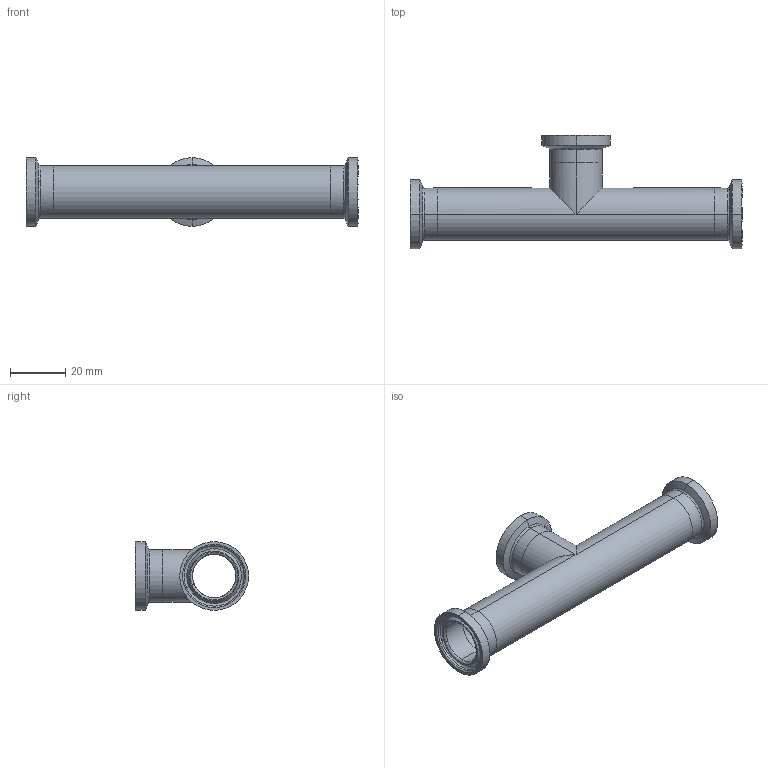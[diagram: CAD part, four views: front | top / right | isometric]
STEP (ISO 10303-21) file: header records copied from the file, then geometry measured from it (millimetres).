
FILE_DESCRIPTION (( 'STEP AP214' ), '1' );
FILE_NAME ('TEG7S6L.75-...STEP', '2016-05-24T12:20:39', ( 'eran' ), ( '' ), 'SwSTEP 2.0', 'SolidWorks 2016', '' );
FILE_SCHEMA (( 'AUTOMOTIVE_DESIGN' ));
Length unit declared in the file: millimetre
Products named in the file (1): TEG7S6L.75-..
Bounding box: 120.6 x 41.1 x 24.99 mm (x, y, z)
Volume: 14202.4 mm3; surface area: 17448.1 mm2
Topology: 4 solids, 4 shells, 82 faces, 192 edges, 120 vertices
Faces by surface type: cylinder 34, bspline 24, plane 12, cone 12
Entity records: 2737 total; most frequent: CARTESIAN_POINT 803, DIRECTION 422, ORIENTED_EDGE 384, EDGE_CURVE 192, AXIS2_PLACEMENT_3D 187, CIRCLE 128, VERTEX_POINT 120, EDGE_LOOP 94
